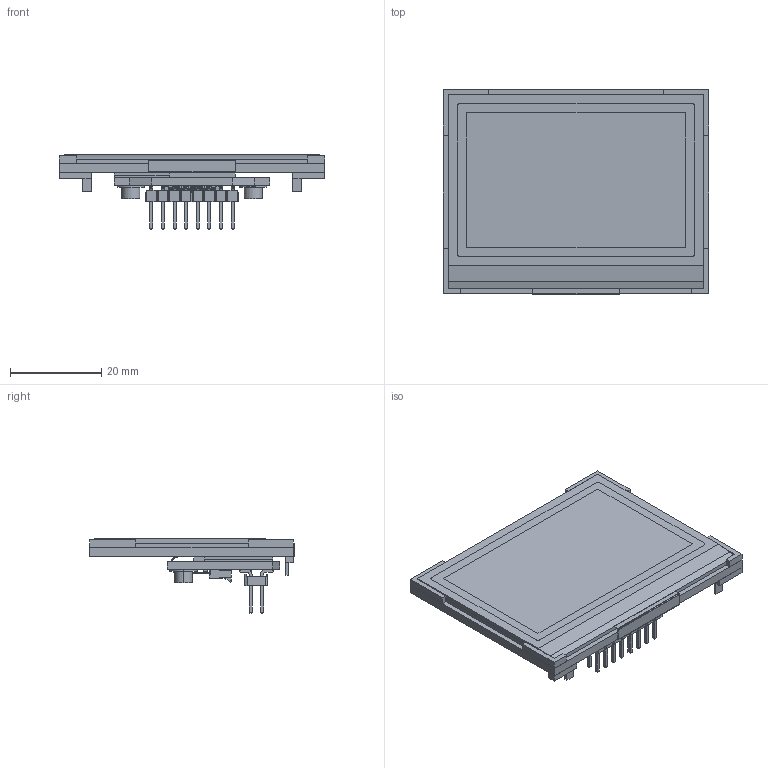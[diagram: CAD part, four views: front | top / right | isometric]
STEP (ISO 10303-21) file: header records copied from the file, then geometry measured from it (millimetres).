
FILE_DESCRIPTION (( 'STEP AP214' ), '1' );
FILE_NAME ('CFAG240128U0-TFH-E1.STEP', '2022-12-08T23:17:27', ( '' ), ( '' ), 'SwSTEP 2.0', 'SolidWorks 2021', '' );
FILE_SCHEMA (( 'AUTOMOTIVE_DESIGN' ));
Length unit declared in the file: millimetre
Products named in the file (7): Backlight frame; CFAG240128U0-TFH; cfa_10110; CFAG240128U0-TFH-E1; CFAG240128U0-NFH; CFPN_01712; VHB_Tape_10099_Short
Assembly tree (8 placements, depth 3):
  CFAG240128U0-TFH-E1
    CFAG240128U0-TFH
      Backlight frame
      CFAG240128U0-NFH
    VHB_Tape_10099_Short  x2
    cfa_10110
    CFPN_01712  x2
Bounding box: 58.2 x 44.92 x 16.22 mm (x, y, z)
Volume: 11814.5 mm3; surface area: 21637.3 mm2
Topology: 47 solids, 47 shells, 2104 faces, 5737 edges, 3803 vertices
Faces by surface type: plane 1544, cylinder 550, bspline 6, cone 4
Entity records: 85410 total; most frequent: CARTESIAN_POINT 13820, ORIENTED_EDGE 11390, DIRECTION 10337, EDGE_CURVE 5695, VECTOR 4037, LINE 4037, VERTEX_POINT 3778, AXIS2_PLACEMENT_3D 3150
